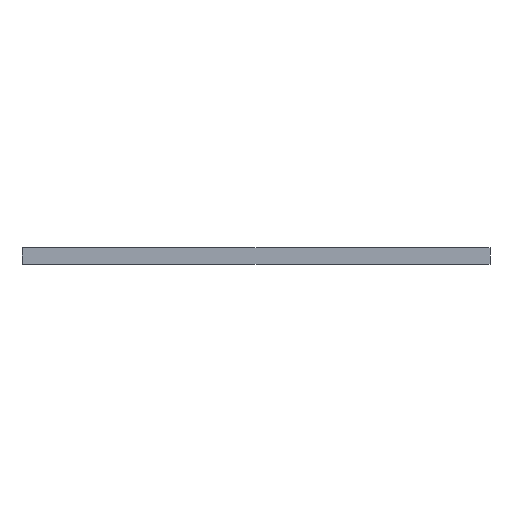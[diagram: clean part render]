
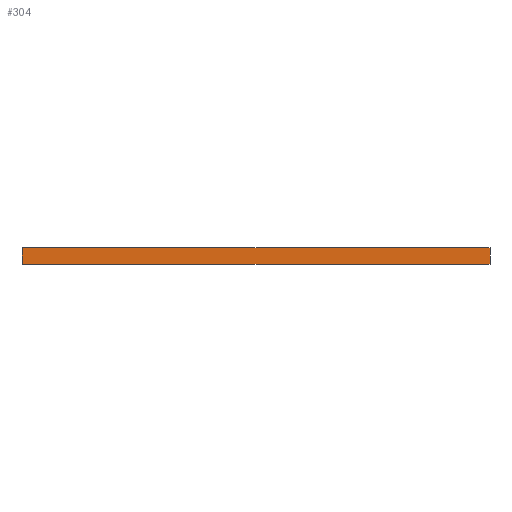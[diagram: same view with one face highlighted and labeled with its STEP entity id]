
A CAD part, front view. The second image highlights one B-rep face of the part: STEP entity #304.
In plain terms, the highlighted planar face has unit normal (0, -1, 0).
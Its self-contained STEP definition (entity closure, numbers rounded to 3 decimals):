
#11 = EDGE_CURVE ( 'NONE', #520, #238, #59, .T. ) ;
#59 = LINE ( 'NONE', #646, #842 ) ;
#79 = VECTOR ( 'NONE', #734, 1000. ) ;
#173 = LINE ( 'NONE', #424, #79 ) ;
#192 = CARTESIAN_POINT ( 'NONE',  ( -35., 0., -1.25 ) ) ;
#203 = VECTOR ( 'NONE', #499, 1000. ) ;
#224 = FACE_OUTER_BOUND ( 'NONE', #736, .T. ) ;
#230 = CARTESIAN_POINT ( 'NONE',  ( 35., 0., -1.25 ) ) ;
#238 = VERTEX_POINT ( 'NONE', #192 ) ;
#241 = EDGE_CURVE ( 'NONE', #520, #508, #712, .T. ) ;
#268 = CARTESIAN_POINT ( 'NONE',  ( 35., 0., 1.25 ) ) ;
#280 = PLANE ( 'NONE',  #747 ) ;
#304 = ADVANCED_FACE ( 'NONE', ( #224 ), #280, .F. ) ;
#339 = DIRECTION ( 'NONE',  ( 1., 0., 0. ) ) ;
#356 = DIRECTION ( 'NONE',  ( 0., 1., 0. ) ) ;
#374 = VERTEX_POINT ( 'NONE', #230 ) ;
#395 = LINE ( 'NONE', #652, #203 ) ;
#421 = EDGE_CURVE ( 'NONE', #508, #374, #395, .T. ) ;
#424 = CARTESIAN_POINT ( 'NONE',  ( -35., 0., -1.25 ) ) ;
#499 = DIRECTION ( 'NONE',  ( 0., 0., -1. ) ) ;
#505 = DIRECTION ( 'NONE',  ( 0., 0., 1. ) ) ;
#506 = ORIENTED_EDGE ( 'NONE', *, *, #797, .T. ) ;
#508 = VERTEX_POINT ( 'NONE', #268 ) ;
#520 = VERTEX_POINT ( 'NONE', #727 ) ;
#595 = ORIENTED_EDGE ( 'NONE', *, *, #421, .F. ) ;
#646 = CARTESIAN_POINT ( 'NONE',  ( -35., 0., 1.25 ) ) ;
#652 = CARTESIAN_POINT ( 'NONE',  ( 35., 0., 1.25 ) ) ;
#680 = ORIENTED_EDGE ( 'NONE', *, *, #241, .F. ) ;
#712 = LINE ( 'NONE', #796, #882 ) ;
#727 = CARTESIAN_POINT ( 'NONE',  ( -35., 0., 1.25 ) ) ;
#734 = DIRECTION ( 'NONE',  ( 1., 0., 0. ) ) ;
#736 = EDGE_LOOP ( 'NONE', ( #506, #595, #680, #740 ) ) ;
#740 = ORIENTED_EDGE ( 'NONE', *, *, #11, .T. ) ;
#747 = AXIS2_PLACEMENT_3D ( 'NONE', #941, #356, #505 ) ;
#796 = CARTESIAN_POINT ( 'NONE',  ( -35., 0., 1.25 ) ) ;
#797 = EDGE_CURVE ( 'NONE', #238, #374, #173, .T. ) ;
#842 = VECTOR ( 'NONE', #857, 1000. ) ;
#857 = DIRECTION ( 'NONE',  ( 0., 0., -1. ) ) ;
#882 = VECTOR ( 'NONE', #339, 1000. ) ;
#941 = CARTESIAN_POINT ( 'NONE',  ( -35., 0., 1.25 ) ) ;
